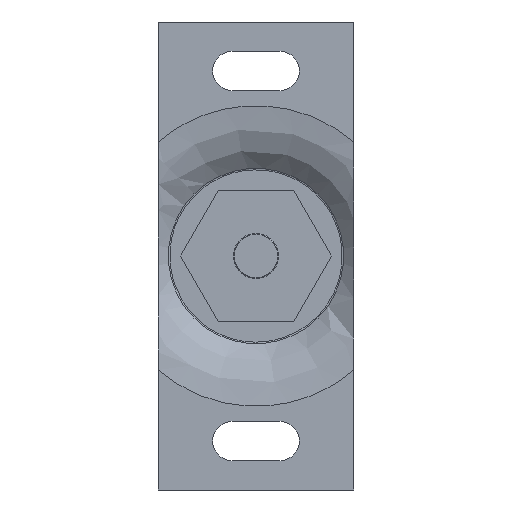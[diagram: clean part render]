
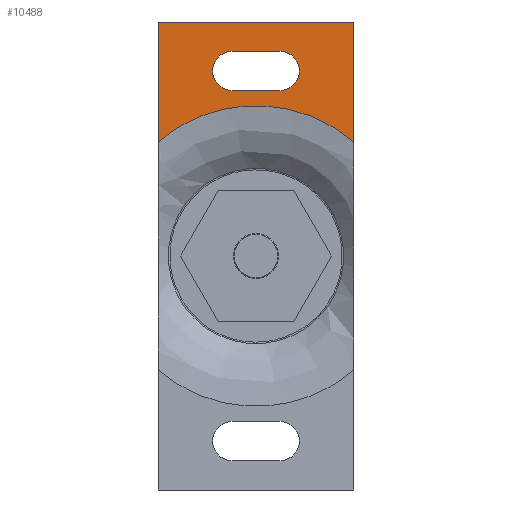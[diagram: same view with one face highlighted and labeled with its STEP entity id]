
A CAD part, left-side view. The second image highlights one B-rep face of the part: STEP entity #10488.
In plain terms, the highlighted planar face has unit normal (-1, 0, 0).
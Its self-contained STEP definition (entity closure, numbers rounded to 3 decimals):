
#2315 = PLANE ( 'NONE',  #2705 ) ;
#2322 = CARTESIAN_POINT ( 'NONE',  ( 0., 0., 0. ) ) ;
#2323 = DIRECTION ( 'NONE',  ( 1., 0., 0. ) ) ;
#2324 = DIRECTION ( 'NONE',  ( 0., 0., -1. ) ) ;
#2705 = AXIS2_PLACEMENT_3D ( 'NONE', #2322, #2323, #2324 ) ;
#3412 = ORIENTED_EDGE ( 'NONE', *, *, #5783, .F. ) ;
#3450 = ORIENTED_EDGE ( 'NONE', *, *, #5778, .F. ) ;
#3653 = ORIENTED_EDGE ( 'NONE', *, *, #5771, .F. ) ;
#3745 = ORIENTED_EDGE ( 'NONE', *, *, #5773, .F. ) ;
#3858 = ORIENTED_EDGE ( 'NONE', *, *, #5781, .F. ) ;
#3896 = ORIENTED_EDGE ( 'NONE', *, *, #5719, .F. ) ;
#3934 = ORIENTED_EDGE ( 'NONE', *, *, #5769, .F. ) ;
#3977 = ORIENTED_EDGE ( 'NONE', *, *, #5774, .F. ) ;
#5719 = EDGE_CURVE ( 'NONE', #6497, #6564, #10112, .T. ) ;
#5769 = EDGE_CURVE ( 'NONE', #6572, #6560, #10201, .T. ) ;
#5771 = EDGE_CURVE ( 'NONE', #6560, #6483, #10197, .T. ) ;
#5773 = EDGE_CURVE ( 'NONE', #6483, #6576, #10205, .T. ) ;
#5774 = EDGE_CURVE ( 'NONE', #6576, #6572, #10210, .T. ) ;
#5778 = EDGE_CURVE ( 'NONE', #6584, #6497, #10208, .T. ) ;
#5781 = EDGE_CURVE ( 'NONE', #6564, #6587, #10216, .T. ) ;
#5783 = EDGE_CURVE ( 'NONE', #6587, #6584, #11546, .T. ) ;
#6483 = VERTEX_POINT ( 'NONE', #8625 ) ;
#6497 = VERTEX_POINT ( 'NONE', #8628 ) ;
#6498 = EDGE_LOOP ( 'NONE', ( #3858, #3896, #3450, #3412 ) ) ;
#6519 = EDGE_LOOP ( 'NONE', ( #3745, #3653, #3934, #3977 ) ) ;
#6560 = VERTEX_POINT ( 'NONE', #8639 ) ;
#6564 = VERTEX_POINT ( 'NONE', #8641 ) ;
#6572 = VERTEX_POINT ( 'NONE', #8640 ) ;
#6576 = VERTEX_POINT ( 'NONE', #8645 ) ;
#6584 = VERTEX_POINT ( 'NONE', #8643 ) ;
#6587 = VERTEX_POINT ( 'NONE', #8647 ) ;
#8324 = DIRECTION ( 'NONE',  ( 0., 0., -1. ) ) ;
#8325 = CARTESIAN_POINT ( 'NONE',  ( 0., -9., 10.474 ) ) ;
#8326 = CARTESIAN_POINT ( 'NONE',  ( 0., -3.576, 15.135 ) ) ;
#8345 = CARTESIAN_POINT ( 'NONE',  ( 0., 3.576, 15.135 ) ) ;
#8346 = CARTESIAN_POINT ( 'NONE',  ( 0., 9., 10.474 ) ) ;
#8625 = CARTESIAN_POINT ( 'NONE',  ( 0., -2.2, 18.8 ) ) ;
#8628 = CARTESIAN_POINT ( 'NONE',  ( 0., 9., 21.5 ) ) ;
#8639 = CARTESIAN_POINT ( 'NONE',  ( 0., -2.2, 15.2 ) ) ;
#8640 = CARTESIAN_POINT ( 'NONE',  ( 0., 2.2, 15.2 ) ) ;
#8641 = CARTESIAN_POINT ( 'NONE',  ( 0., -9., 21.5 ) ) ;
#8643 = CARTESIAN_POINT ( 'NONE',  ( 0., 9., 10.474 ) ) ;
#8645 = CARTESIAN_POINT ( 'NONE',  ( 0., 2.2, 18.8 ) ) ;
#8647 = CARTESIAN_POINT ( 'NONE',  ( 0., -9., 10.474 ) ) ;
#8951 = CARTESIAN_POINT ( 'NONE',  ( 0., 0., 21.5 ) ) ;
#8955 = DIRECTION ( 'NONE',  ( 0., -1., 0. ) ) ;
#9141 = CARTESIAN_POINT ( 'NONE',  ( 0., 0., 15.2 ) ) ;
#9142 = DIRECTION ( 'NONE',  ( 0., -1., 0. ) ) ;
#9146 = CARTESIAN_POINT ( 'NONE',  ( 0., 0., 18.8 ) ) ;
#9147 = CARTESIAN_POINT ( 'NONE',  ( 0., -2.2, 17. ) ) ;
#9148 = DIRECTION ( 'NONE',  ( -1., 0., 0. ) ) ;
#9149 = DIRECTION ( 'NONE',  ( 0., 0., 1. ) ) ;
#9150 = DIRECTION ( 'NONE',  ( 0., 1., 0. ) ) ;
#9154 = CARTESIAN_POINT ( 'NONE',  ( 0., 2.2, 17. ) ) ;
#9155 = DIRECTION ( 'NONE',  ( -1., 0., 0. ) ) ;
#9156 = DIRECTION ( 'NONE',  ( 0., 0., 1. ) ) ;
#9521 = CARTESIAN_POINT ( 'NONE',  ( 0., 9., 0. ) ) ;
#9539 = DIRECTION ( 'NONE',  ( 0., 0., 1. ) ) ;
#9544 = CARTESIAN_POINT ( 'NONE',  ( 0., -9., 0. ) ) ;
#9596 = AXIS2_PLACEMENT_3D ( 'NONE', #9147, #9148, #9149 ) ;
#9597 = AXIS2_PLACEMENT_3D ( 'NONE', #9154, #9155, #9156 ) ;
#10112 = LINE ( 'NONE', #8951, #10131 ) ;
#10131 = VECTOR ( 'NONE', #8955, 1000. ) ;
#10197 = CIRCLE ( 'NONE', #9596, 1.8 ) ;
#10201 = LINE ( 'NONE', #9141, #10204 ) ;
#10204 = VECTOR ( 'NONE', #9142, 1000. ) ;
#10205 = LINE ( 'NONE', #9146, #10211 ) ;
#10208 = LINE ( 'NONE', #9521, #10215 ) ;
#10210 = CIRCLE ( 'NONE', #9597, 1.8 ) ;
#10211 = VECTOR ( 'NONE', #9150, 1000. ) ;
#10215 = VECTOR ( 'NONE', #9539, 1000. ) ;
#10216 = LINE ( 'NONE', #9544, #10218 ) ;
#10218 = VECTOR ( 'NONE', #8324, 1000. ) ;
#10488 = ADVANCED_FACE ( 'NONE', ( #10586, #10590 ), #2315, .F. ) ;
#10586 = FACE_BOUND ( 'NONE', #6519, .T. ) ;
#10590 = FACE_OUTER_BOUND ( 'NONE', #6498, .T. ) ;
#11546 =( BOUNDED_CURVE ( )  B_SPLINE_CURVE ( 3, ( #8325, #8326, #8345, #8346 ),
 .UNSPECIFIED., .F., .T. ) 
 B_SPLINE_CURVE_WITH_KNOTS ( ( 4, 4 ),
 ( 0., 1. ),
 .UNSPECIFIED. ) 
 CURVE ( )  GEOMETRIC_REPRESENTATION_ITEM ( )  RATIONAL_B_SPLINE_CURVE ( ( 1., 0.839, 0.839, 1. ) ) 
 REPRESENTATION_ITEM ( '' )  );
